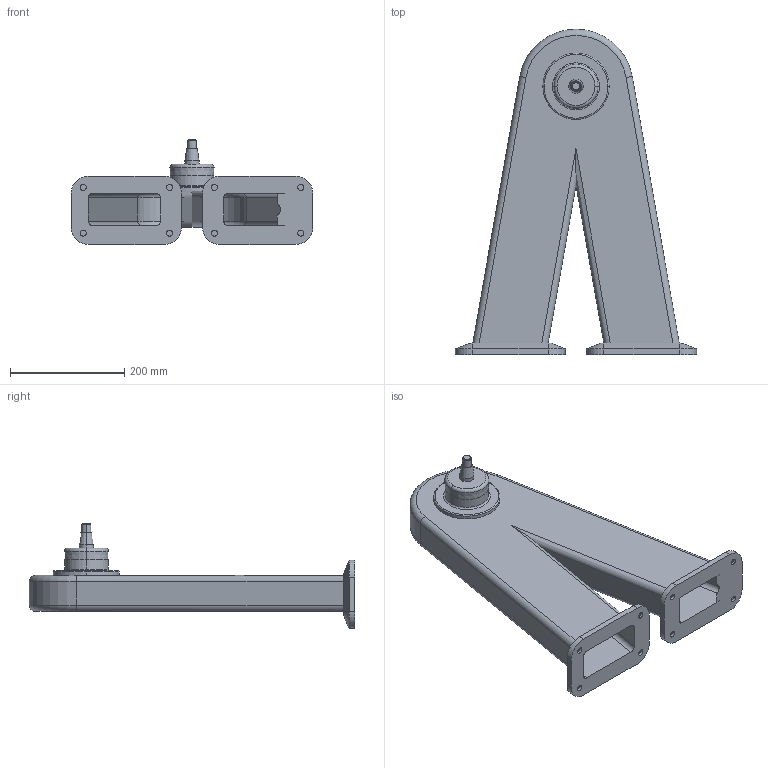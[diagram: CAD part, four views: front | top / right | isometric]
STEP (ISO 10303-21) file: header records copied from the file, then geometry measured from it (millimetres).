
FILE_DESCRIPTION (( 'STEP AP214' ), '1' );
FILE_NAME ('WP850_H470.STEP', '2014-09-08T12:56:16', ( '' ), ( '' ), 'SwSTEP 2.0', 'SolidWorks 2014', '' );
FILE_SCHEMA (( 'AUTOMOTIVE_DESIGN' ));
Length unit declared in the file: millimetre
Products named in the file (1): WP850_H470
Bounding box: 422.77 x 570 x 183.98 mm (x, y, z)
Volume: 1775239.3 mm3; surface area: 794605.5 mm2
Topology: 1 solids, 1 shells, 152 faces, 347 edges, 218 vertices
Faces by surface type: cylinder 76, plane 52, cone 14, torus 10
Entity records: 4347 total; most frequent: DIRECTION 791, CARTESIAN_POINT 778, ORIENTED_EDGE 694, EDGE_CURVE 347, AXIS2_PLACEMENT_3D 311, VERTEX_POINT 218, EDGE_LOOP 185, LINE 169
